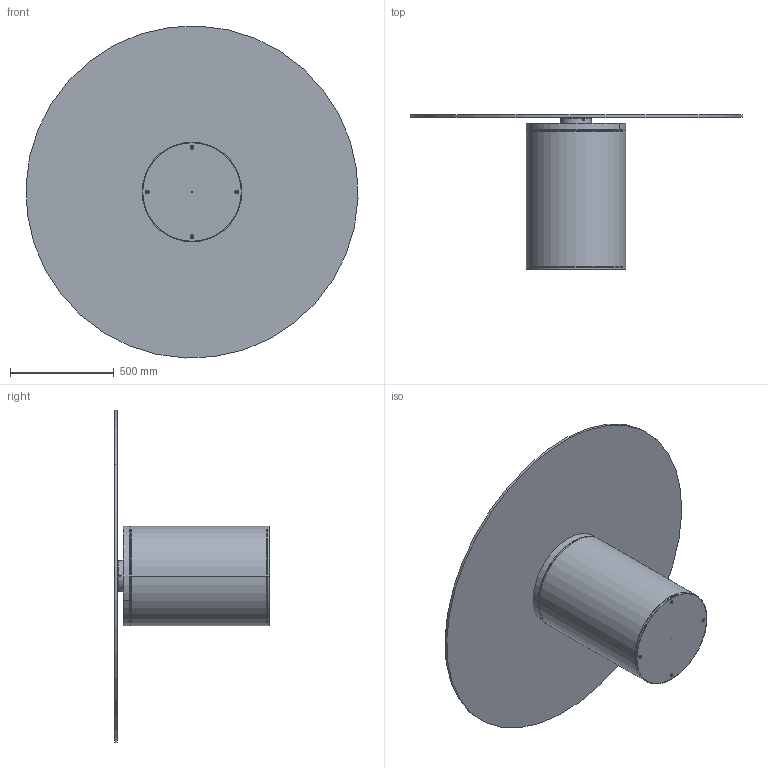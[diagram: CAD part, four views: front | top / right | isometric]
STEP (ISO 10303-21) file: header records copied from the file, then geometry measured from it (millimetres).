
FILE_DESCRIPTION (( 'STEP AP203' ), '1' );
FILE_NAME ('CI08G.STEP', '2024-08-08T06:50:05', ( '' ), ( '' ), 'SwSTEP 2.0', 'SolidWorks 2022', '' );
FILE_SCHEMA (( 'CONFIG_CONTROL_DESIGN' ));
Length unit declared in the file: millimetre
Products named in the file (15): CIB000000-00-CILINDRO BASE D.480mm_SENZA PIASTRA; CIB000000SPE-00-SPESSORE PER CILINDRO TRASPARENTE; CI08G; Grano M6_M6x8; PIASTRE DOPPIE D.150 PER TRASPARENTE MASCHIO_Ø150; CXXCRXXD-01-Piani Rotondi in Cristallo CON DISCO_C08CR0CI PIANO CRISTALLO Ø160cm CILINDRO; M8xXXmm_hex_M8X55mm; M8xXXmm_hex_M8X20mm; Grano M6_M6x14; C1XCRMXX-00-piani Rotondi Cristallo TRASPARENTE_C08 D.160cm; CIB000000BAR-00-BARRA PER CILINDRO TRASPARENTE_Default<A macchina>; CIB000000_02-01-ZAVORRA IN FERRO D.480mm; PIASTRE DOPPIE D.150 PER TRASPARENTE FEMMINA_Ø150; M8xXXmm_M8x10mm; CIB000000_01-00-struttura cilindro D.480mm
Assembly tree (23 placements, depth 3):
  CI08G
    CXXCRXXD-01-Piani Rotondi in Cristallo CON DISCO_C08CR0CI PIANO CRISTALLO Ø160cm CILINDRO
      C1XCRMXX-00-piani Rotondi Cristallo TRASPARENTE_C08 D.160cm
      PIASTRE DOPPIE D.150 PER TRASPARENTE MASCHIO_Ø150
    CIB000000-00-CILINDRO BASE D.480mm_SENZA PIASTRA
      CIB000000_01-00-struttura cilindro D.480mm
      CIB000000_02-01-ZAVORRA IN FERRO D.480mm
      M8xXXmm_hex_M8X20mm  x4
    CIB000000SPE-00-SPESSORE PER CILINDRO TRASPARENTE
    CIB000000BAR-00-BARRA PER CILINDRO TRASPARENTE_Default<A macchina>
    PIASTRE DOPPIE D.150 PER TRASPARENTE FEMMINA_Ø150
    M8xXXmm_hex_M8X55mm  x3
    M8xXXmm_M8x10mm  x4
    Grano M6_M6x8
    Grano M6_M6x14  x2
Bounding box: 1598.81 x 744 x 1598.81 mm (x, y, z)
Volume: 35523253.1 mm3; surface area: 7352346.2 mm2
Topology: 26 solids, 26 shells, 699 faces, 1570 edges, 912 vertices
Faces by surface type: plane 282, cylinder 240, cone 124, torus 30, sphere 14, bspline 9
Entity records: 16662 total; most frequent: CARTESIAN_POINT 5896, DIRECTION 1964, ORIENTED_EDGE 1782, EDGE_CURVE 891, AXIS2_PLACEMENT_3D 787, VERTEX_POINT 542, EDGE_LOOP 465, VECTOR 390
